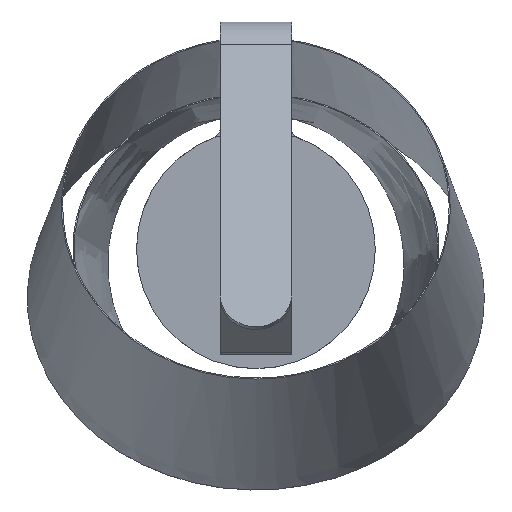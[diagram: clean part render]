
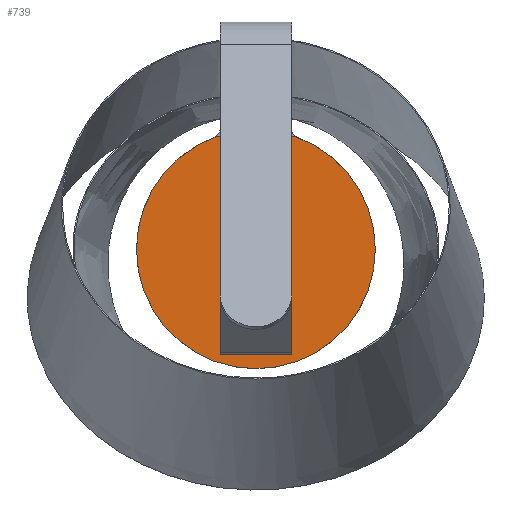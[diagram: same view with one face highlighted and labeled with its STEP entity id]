
A CAD part, top view. The second image highlights one B-rep face of the part: STEP entity #739.
In plain terms, the highlighted planar face has unit normal (0, 0, 1).
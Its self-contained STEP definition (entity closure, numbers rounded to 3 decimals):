
#419=FACE_BOUND('',#1222,.T.);
#420=FACE_BOUND('',#1223,.T.);
#421=FACE_BOUND('',#1224,.T.);
#739=ADVANCED_FACE('',(#419,#420,#421),#841,.T.);
#841=PLANE('',#4219);
#1222=EDGE_LOOP('',(#2385));
#1223=EDGE_LOOP('',(#2386));
#1224=EDGE_LOOP('',(#2387));
#1480=CIRCLE('',#4214,40.);
#1482=CIRCLE('',#4217,2.);
#1483=CIRCLE('',#4218,2.);
#2385=ORIENTED_EDGE('',*,*,#3274,.T.);
#2386=ORIENTED_EDGE('',*,*,#3275,.T.);
#2387=ORIENTED_EDGE('',*,*,#3272,.T.);
#2788=VERTEX_POINT('',#6323);
#2790=VERTEX_POINT('',#6328);
#2791=VERTEX_POINT('',#6330);
#3272=EDGE_CURVE('',#2788,#2788,#1480,.T.);
#3274=EDGE_CURVE('',#2790,#2790,#1482,.T.);
#3275=EDGE_CURVE('',#2791,#2791,#1483,.T.);
#4214=AXIS2_PLACEMENT_3D('',#6322,#5255,#5256);
#4217=AXIS2_PLACEMENT_3D('',#6327,#5261,#5262);
#4218=AXIS2_PLACEMENT_3D('',#6329,#5263,#5264);
#4219=AXIS2_PLACEMENT_3D('',#6331,#5265,#5266);
#5255=DIRECTION('',(0.,0.,1.));
#5256=DIRECTION('',(1.,0.,0.));
#5261=DIRECTION('',(0.,0.,-1.));
#5262=DIRECTION('',(1.,0.,0.));
#5263=DIRECTION('',(0.,0.,-1.));
#5264=DIRECTION('',(1.,0.,0.));
#5265=DIRECTION('',(0.,0.,1.));
#5266=DIRECTION('',(1.,0.,0.));
#6322=CARTESIAN_POINT('',(0.,0.,4.));
#6323=CARTESIAN_POINT('',(40.,0.,4.));
#6327=CARTESIAN_POINT('',(-20.,0.,4.));
#6328=CARTESIAN_POINT('',(-18.,0.,4.));
#6329=CARTESIAN_POINT('',(20.,0.,4.));
#6330=CARTESIAN_POINT('',(22.,0.,4.));
#6331=CARTESIAN_POINT('',(0.,0.,4.));
